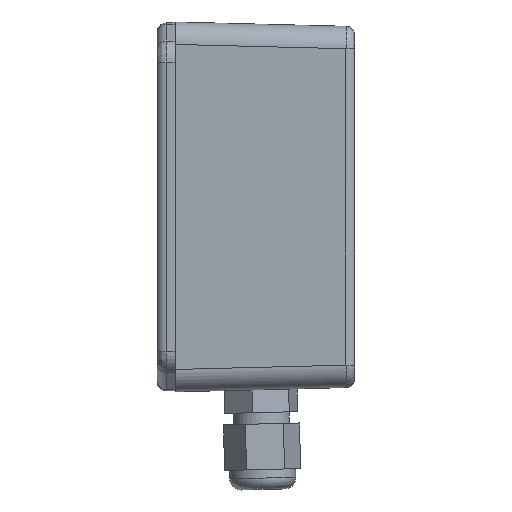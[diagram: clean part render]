
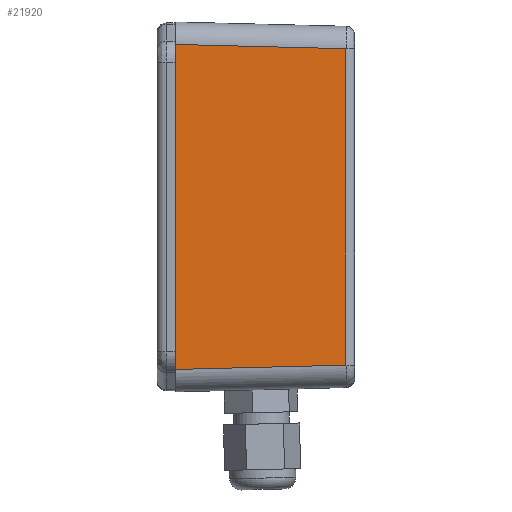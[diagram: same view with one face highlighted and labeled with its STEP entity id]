
A CAD part, left-side view. The second image highlights one B-rep face of the part: STEP entity #21920.
In plain terms, the highlighted planar face has unit normal (-1, -0.025, 0) as drawn and (-1, 0, -0.025) by its records, which use the part's own axes.
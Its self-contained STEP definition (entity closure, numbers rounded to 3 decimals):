
#217 = VECTOR ( 'NONE', #3376, 1000. ) ;
#1336 = DIRECTION ( 'NONE',  ( -1., 0., -0.025 ) ) ;
#1750 = EDGE_CURVE ( 'NONE', #13907, #11138, #8925, .T. ) ;
#1935 = DIRECTION ( 'NONE',  ( 0.025, -0.025, -0.999 ) ) ;
#2426 = CARTESIAN_POINT ( 'NONE',  ( -54.3, 35.252, -38.05 ) ) ;
#2614 = AXIS2_PLACEMENT_3D ( 'NONE', #12092, #1336, #13897 ) ;
#3376 = DIRECTION ( 'NONE',  ( 0.025, 0.025, -0.999 ) ) ;
#3670 = VERTEX_POINT ( 'NONE', #7284 ) ;
#3931 = VERTEX_POINT ( 'NONE', #2426 ) ;
#4824 = DIRECTION ( 'NONE',  ( 0., 1., 0. ) ) ;
#4948 = LINE ( 'NONE', #8724, #217 ) ;
#5308 = LINE ( 'NONE', #18647, #10112 ) ;
#6070 = EDGE_LOOP ( 'NONE', ( #8687, #20162, #18249, #13303 ) ) ;
#6651 = CARTESIAN_POINT ( 'NONE',  ( -55.25, 0., 0. ) ) ;
#7284 = CARTESIAN_POINT ( 'NONE',  ( -54.3, -35.252, -38.05 ) ) ;
#8687 = ORIENTED_EDGE ( 'NONE', *, *, #14855, .F. ) ;
#8724 = CARTESIAN_POINT ( 'NONE',  ( -55.24, -36.192, -0.389 ) ) ;
#8925 = LINE ( 'NONE', #6651, #18506 ) ;
#9780 = DIRECTION ( 'NONE',  ( 0., 1., 0. ) ) ;
#10112 = VECTOR ( 'NONE', #9780, 1000. ) ;
#10893 = CARTESIAN_POINT ( 'NONE',  ( -55.25, 36.202, 0. ) ) ;
#11138 = VERTEX_POINT ( 'NONE', #20799 ) ;
#12092 = CARTESIAN_POINT ( 'NONE',  ( -55.25, 0., 0. ) ) ;
#13303 = ORIENTED_EDGE ( 'NONE', *, *, #20694, .F. ) ;
#13831 = PLANE ( 'NONE',  #2614 ) ;
#13897 = DIRECTION ( 'NONE',  ( -0.025, 0., 1. ) ) ;
#13907 = VERTEX_POINT ( 'NONE', #20843 ) ;
#14232 = FACE_OUTER_BOUND ( 'NONE', #6070, .T. ) ;
#14855 = EDGE_CURVE ( 'NONE', #13907, #3670, #4948, .T. ) ;
#16874 = LINE ( 'NONE', #10893, #21038 ) ;
#18249 = ORIENTED_EDGE ( 'NONE', *, *, #20002, .T. ) ;
#18506 = VECTOR ( 'NONE', #4824, 1000. ) ;
#18647 = CARTESIAN_POINT ( 'NONE',  ( -54.3, 0., -38.05 ) ) ;
#20002 = EDGE_CURVE ( 'NONE', #11138, #3931, #16874, .T. ) ;
#20162 = ORIENTED_EDGE ( 'NONE', *, *, #1750, .T. ) ;
#20694 = EDGE_CURVE ( 'NONE', #3670, #3931, #5308, .T. ) ;
#20799 = CARTESIAN_POINT ( 'NONE',  ( -55.25, 36.202, 0. ) ) ;
#20843 = CARTESIAN_POINT ( 'NONE',  ( -55.25, -36.202, 0. ) ) ;
#21038 = VECTOR ( 'NONE', #1935, 1000. ) ;
#21920 = ADVANCED_FACE ( 'NONE', ( #14232 ), #13831, .T. ) ;
